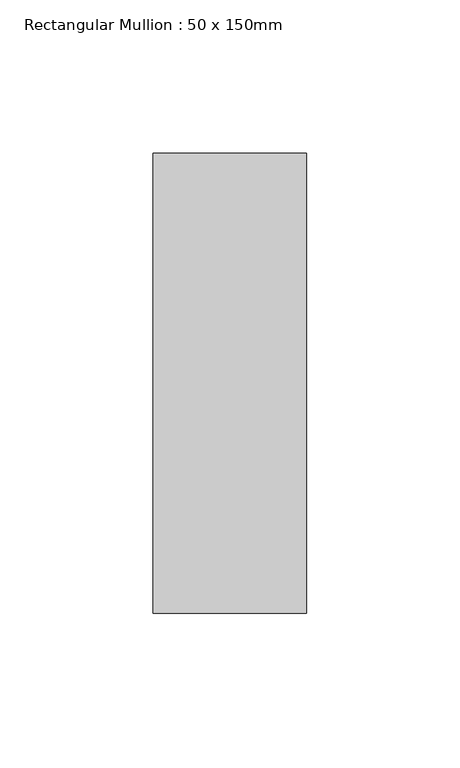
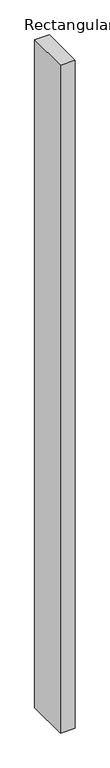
"""IFC4 building model written with IfcOpenShell, lengths in millimetres: member geometry, Rectangular Mullion : 50 x 150mm."""

from ifc_helpers import new_model, si_unit, frame, origin, place, context, project, spatial, polyline, outline, extrude, source, transform, mapped, element, save


def rectangular_mullion_50_x_150mm_7fbdd70b(model_context):
    return source(origin(), model_context, "Body", "SweptSolid", [
        extrude(outline(polyline([(25.0, 75.0), (25.0, -75.0), (-25.0, -75.0), (-25.0, 75.0), (25.0, 75.0)])), frame((0.0, 0.0, -2378.9532654), z_axis=(0.0, 0.0, 1.0), x_axis=(1.0, 0.0, 0.0)), (0.0, 0.0, 1.0), 2378.9532654),
    ])


if __name__ == "__main__":
    model = new_model("IFC4")
    model_context = context("Model", 3, world=origin())
    ifc_project = project(units=[si_unit("LENGTHUNIT", "METRE", prefix="MILLI")], contexts=[model_context])
    site = spatial("IfcSite", under=ifc_project)
    building = spatial("IfcBuilding", under=site)
    placement = place(None, origin())
    rectangular_mullion_50_x_150mm_shape = rectangular_mullion_50_x_150mm_7fbdd70b(model_context)
    element("IfcMember", 1, ObjectType="Rectangular Mullion : 50 x 150mm", at=placement, inside=building, context=model_context, shape_type="MappedRepresentation", body=[
        mapped(rectangular_mullion_50_x_150mm_shape, transform((0.0, 0.0, 0.0), x_axis=(1.0, 0.0, 0.0), y_axis=(0.0, 1.0, 0.0), z_axis=(0.0, 0.0, 1.0))),
    ])
    save(model, "model.ifc")
